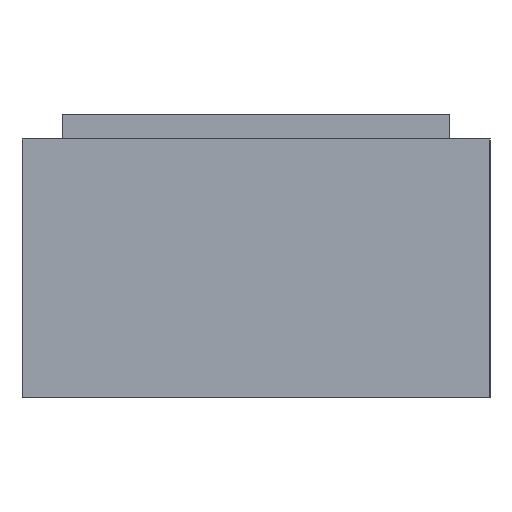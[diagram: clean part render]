
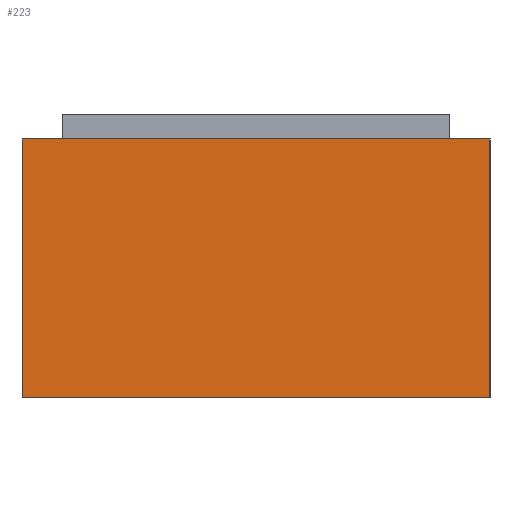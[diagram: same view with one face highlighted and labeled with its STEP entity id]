
A CAD part, left-side view. The second image highlights one B-rep face of the part: STEP entity #223.
In plain terms, the highlighted planar face has unit normal (-1, 0, 0).
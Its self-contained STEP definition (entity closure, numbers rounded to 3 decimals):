
#1=DIRECTION('',(0.,-1.,0.));
#2=VECTOR('',#1,0.58);
#3=CARTESIAN_POINT('',(-0.496,0.29,0.));
#4=LINE('',#3,#2);
#17=DIRECTION('',(0.,-1.,0.));
#18=VECTOR('',#17,0.58);
#19=CARTESIAN_POINT('',(-0.496,0.29,0.32));
#20=LINE('',#19,#18);
#21=DIRECTION('',(0.,0.,1.));
#22=VECTOR('',#21,0.32);
#23=CARTESIAN_POINT('',(-0.496,0.29,0.));
#24=LINE('',#23,#22);
#141=DIRECTION('',(0.,0.,1.));
#142=VECTOR('',#141,0.32);
#143=CARTESIAN_POINT('',(-0.496,-0.29,0.));
#144=LINE('',#143,#142);
#145=CARTESIAN_POINT('',(-0.496,0.29,0.));
#146=CARTESIAN_POINT('',(-0.496,-0.29,0.));
#147=VERTEX_POINT('',#145);
#148=VERTEX_POINT('',#146);
#185=CARTESIAN_POINT('',(-0.496,0.29,0.32));
#186=CARTESIAN_POINT('',(-0.496,-0.29,0.32));
#187=VERTEX_POINT('',#185);
#188=VERTEX_POINT('',#186);
#209=CARTESIAN_POINT('',(-0.496,0.29,0.));
#210=DIRECTION('',(-1.,0.,0.));
#211=DIRECTION('',(0.,-1.,0.));
#212=AXIS2_PLACEMENT_3D('',#209,#210,#211);
#213=PLANE('',#212);
#215=ORIENTED_EDGE('',*,*,#214,.T.);
#217=ORIENTED_EDGE('',*,*,#216,.F.);
#218=ORIENTED_EDGE('',*,*,#198,.F.);
#220=ORIENTED_EDGE('',*,*,#219,.T.);
#221=EDGE_LOOP('',(#215,#217,#218,#220));
#222=FACE_OUTER_BOUND('',#221,.F.);
#223=ADVANCED_FACE('',(#222),#213,.T.);
#198=EDGE_CURVE('',#147,#148,#4,.T.);
#214=EDGE_CURVE('',#187,#188,#20,.T.);
#216=EDGE_CURVE('',#148,#188,#144,.T.);
#219=EDGE_CURVE('',#147,#187,#24,.T.);
